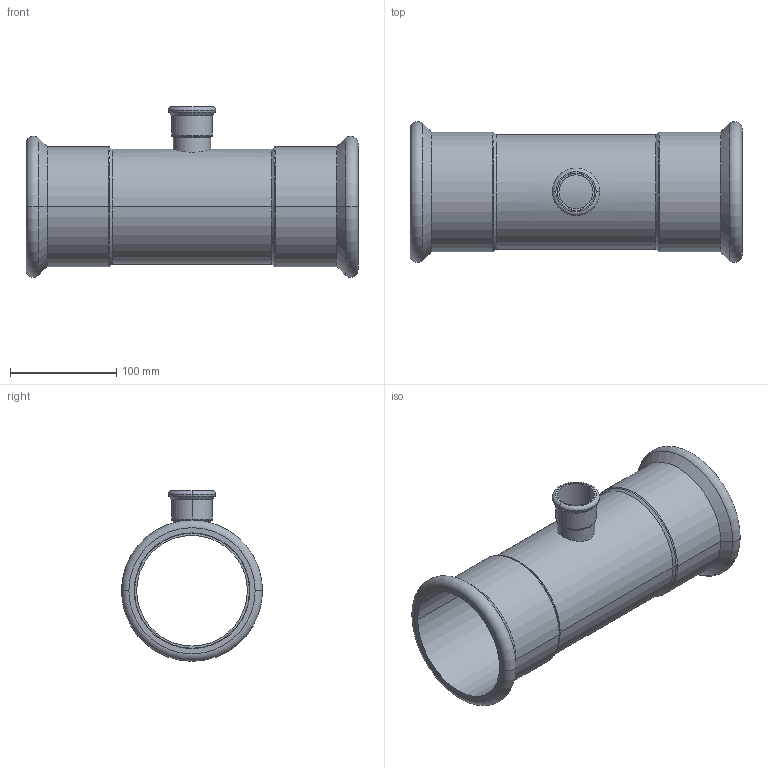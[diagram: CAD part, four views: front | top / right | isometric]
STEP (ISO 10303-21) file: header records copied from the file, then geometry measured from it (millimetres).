
FILE_DESCRIPTION(('CoCreate Modeling STEP Export'),'2;1');
FILE_NAME('C1415 108x35x108.stp','2014-11-12T10:57:24',(''),(''),'CoCreate Modeling STEP processor for AP214 (Solid Model)','CoCreate Modeling 17.00A 17-Jun-2010 (C) Parametric Technology GmbH','');
FILE_SCHEMA(('AUTOMOTIVE_DESIGN { 1 0 10303 214 1 1 1 1 }'));
Length unit declared in the file: millimetre
Products named in the file (2): C1415_108x35x108
Assembly tree (1 placements, depth 2):
  C1415_108x35x108
    C1415_108x35x108
Bounding box: 312 x 132.58 x 160.29 mm (x, y, z)
Volume: 329702.8 mm3; surface area: 236583.8 mm2
Topology: 1 solids, 1 shells, 62 faces, 126 edges, 74 vertices
Faces by surface type: cylinder 27, torus 14, cone 12, plane 9
Entity records: 2549 total; most frequent: CARTESIAN_POINT 1386, ORIENTED_EDGE 252, DIRECTION 208, EDGE_CURVE 126, AXIS2_PLACEMENT_3D 85, VERTEX_POINT 74, EDGE_LOOP 72, FACE_OUTER_BOUND 62
